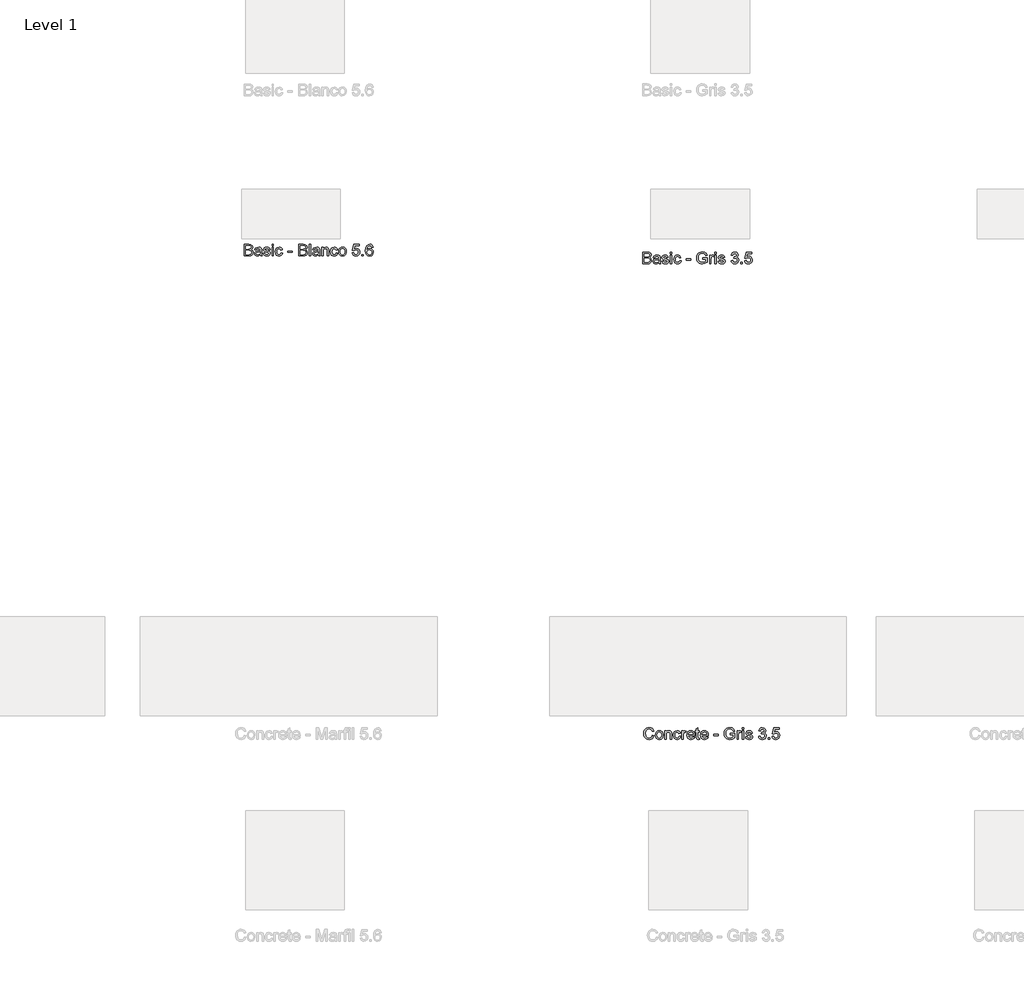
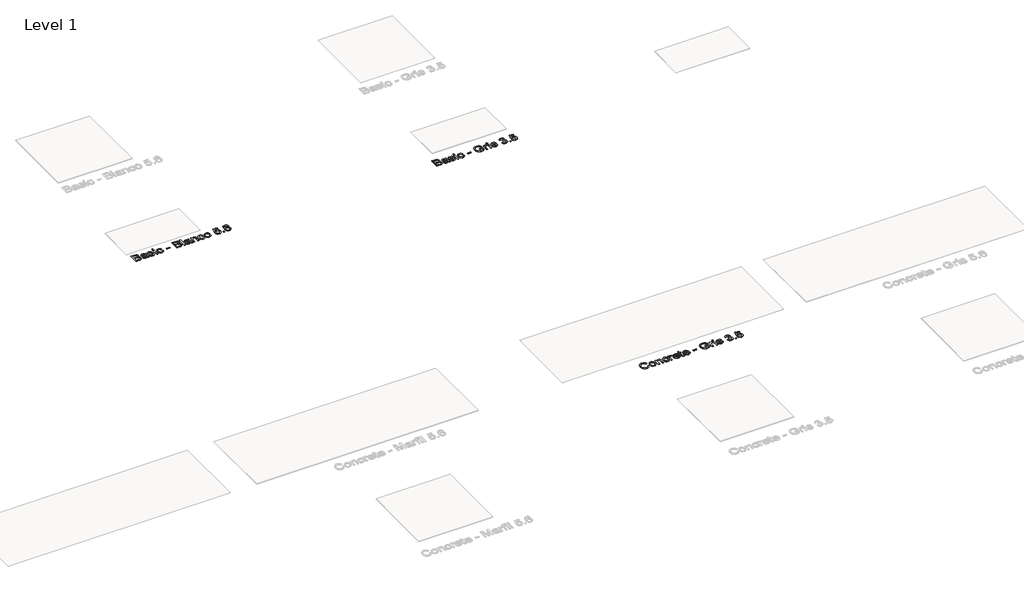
# One storey, part 46 of 80: 3 proxies.
"""IFC4 building model written with IfcOpenShell, lengths in millimetres."""

from ifc_helpers import new_model, si_unit, origin, origin_with_axes, place, context, project, spatial, polyline, outline, extrude, element, save

model = new_model("IFC4")

# Units and contexts
model_context = context("Model", 3, world=origin())
ifc_project = project(units=[si_unit("LENGTHUNIT", "METRE", prefix="MILLI")], contexts=[model_context])

# Site, building, storey
site = spatial("IfcSite", under=ifc_project)
building = spatial("IfcBuilding", under=site)
storey = spatial("IfcBuildingStorey", under=building, Name="Level 1", Elevation=0.0)

# Proxies
placement = place(None, origin())
element("IfcBuildingElementProxy", 1, Name="24\" Arial", ObjectType="24\" Arial", at=placement, inside=storey, context=model_context, shape_type="SweptSolid", body=[
    extrude(outline(polyline([(-23095.7640554, 15638.3282285), (-23095.7640554, 15756.4820747), (-23050.677517, 15756.4820747), (-23028.5957862, 15753.0061131), (-23015.5573247, 15742.3186131), (-23010.8409785, 15727.2032285), (-23014.8073247, 15713.4003439), (-23026.7929016, 15702.9436131), (-23012.240017, 15691.9243824), (-23007.1486708, 15673.5493824), (-23010.6246324, 15657.6695747), (-23019.2352093, 15646.3618824), (-23032.0861708, 15640.3618824), (-23051.0236708, 15638.3282285), (-23095.7640554, 15638.3282285)]), holes=[polyline([(-23080.9948247, 15653.0974593), (-23050.7063631, 15653.0974593), (-23039.7448247, 15653.6743824), (-23030.4707862, 15656.8907285), (-23024.3265554, 15663.4532285), (-23021.9179016, 15673.4051516), (-23024.7448247, 15684.8859208), (-23033.9034785, 15691.7368824), (-23052.1486708, 15693.7128439), (-23080.9948247, 15693.7128439), (-23080.9948247, 15653.0974593)]), polyline([(-23080.9948247, 15708.4820747), (-23054.0236708, 15708.4820747), (-23038.2736708, 15709.7513054), (-23028.7977093, 15715.2176516), (-23025.6102093, 15724.8378439), (-23028.5813631, 15734.4724593), (-23037.0909785, 15740.1695747), (-23056.0717477, 15741.7128439), (-23080.9948247, 15741.7128439), (-23080.9948247, 15708.4820747)])]), origin_with_axes(), (0.0, 0.0, 1.0), 2.0),
    extrude(outline(polyline([(-22933.302517, 15649.4051516), (-22947.6246324, 15639.3955362), (-22963.4467477, 15636.4820747), (-22975.7892958, 15638.2344785), (-22984.8938631, 15643.4916901), (-22990.5080458, 15651.4748631), (-22992.3794401, 15661.4051516), (-22989.552517, 15673.0878439), (-22982.1246324, 15681.5686131), (-22971.7832862, 15686.414767), (-22959.0044401, 15688.6359208), (-22933.3890554, 15693.7128439), (-22933.302517, 15697.0013054), (-22937.3698247, 15707.9051516), (-22953.6967477, 15712.1743824), (-22968.6390554, 15709.3330362), (-22975.7640554, 15699.2513054), (-22990.5332862, 15701.0974593), (-22984.1438631, 15715.5205362), (-22971.2784785, 15723.9724593), (-22951.7929016, 15726.9436131), (-22933.8938631, 15724.3186131), (-22923.7832862, 15717.727267), (-22919.2544401, 15707.7032285), (-22918.5332862, 15694.7801516), (-22918.5332862, 15676.4051516), (-22917.7832862, 15650.7464977), (-22914.8409785, 15638.3282285), (-22929.6102093, 15638.3282285), (-22933.302517, 15649.4051516)]), holes=[polyline([(-22933.302517, 15678.9436131), (-22957.1294401, 15674.414767), (-22969.8361708, 15672.0205362), (-22975.5909785, 15668.1263054), (-22977.6102093, 15662.4436131), (-22973.2111708, 15654.4532285), (-22960.302517, 15651.2513054), (-22945.3602093, 15654.7849593), (-22935.7255939, 15663.3378439), (-22933.3890554, 15674.7609208), (-22933.302517, 15678.9436131)])]), origin_with_axes(), (0.0, 0.0, 1.0), 2.0),
    extrude(outline(polyline([(-22903.7640554, 15664.1743824), (-22888.9948247, 15666.0205362), (-22882.1582862, 15655.0589977), (-22866.4948247, 15651.2513054), (-22851.4371324, 15654.7416901), (-22846.5332862, 15662.9339977), (-22851.4659785, 15669.5686131), (-22866.6679016, 15673.7801516), (-22888.9082862, 15681.0061131), (-22898.615017, 15689.4436131), (-22901.9179016, 15701.3570747), (-22899.2640554, 15712.3618824), (-22892.0236708, 15720.7705362), (-22882.6342477, 15725.1407285), (-22869.927517, 15726.9436131), (-22851.9563631, 15724.0445747), (-22840.5332862, 15716.1984208), (-22835.4563631, 15702.9436131), (-22850.2255939, 15701.0974593), (-22855.7784785, 15709.2464977), (-22868.7736708, 15712.1743824), (-22882.9082862, 15709.3763054), (-22887.1486708, 15702.8570747), (-22885.3890554, 15698.5589977), (-22879.8794401, 15695.2993824), (-22867.1582862, 15692.1551516), (-22845.4804016, 15685.2032285), (-22835.4130939, 15677.3282285), (-22831.7640554, 15664.4916901), (-22836.0477093, 15650.3570747), (-22848.4082862, 15640.102267), (-22866.6967477, 15636.4820747), (-22881.5885747, 15638.227267), (-22892.4563631, 15643.4628439), (-22899.7111708, 15652.1311131), (-22903.7640554, 15664.1743824)])), origin_with_axes(), (0.0, 0.0, 1.0), 2.0),
    extrude(outline(polyline([(-22815.1486708, 15638.3282285), (-22815.1486708, 15725.0974593), (-22800.3794401, 15725.0974593), (-22800.3794401, 15638.3282285), (-22815.1486708, 15638.3282285)])), origin_with_axes(), (0.0, 0.0, 1.0), 2.0),
    extrude(outline(polyline([(-22815.1486708, 15741.7128439), (-22815.1486708, 15756.4820747), (-22800.3794401, 15756.4820747), (-22800.3794401, 15741.7128439), (-22815.1486708, 15741.7128439)])), origin_with_axes(), (0.0, 0.0, 1.0), 2.0),
    extrude(outline(polyline([(-22722.8409785, 15669.7128439), (-22708.0717477, 15667.8666901), (-22712.1895362, 15654.7308727), (-22719.927517, 15644.8041901), (-22730.5573247, 15638.5626035), (-22743.3505939, 15636.4820747), (-22759.0609304, 15639.3847189), (-22771.3457862, 15648.0926516), (-22779.2748727, 15662.2236612), (-22781.9179016, 15681.3955362), (-22777.4034785, 15705.9291901), (-22771.7063631, 15715.1275074), (-22763.6438631, 15721.6936131), (-22743.552517, 15726.9436131), (-22731.0729497, 15725.1407285), (-22721.0957862, 15719.7320747), (-22713.9383343, 15711.0061131), (-22709.9179016, 15699.2513054), (-22724.6871324, 15697.4051516), (-22731.5380939, 15708.4676516), (-22743.4371324, 15712.1743824), (-22752.9816035, 15710.3498631), (-22760.5573247, 15704.8763054), (-22765.5008343, 15695.4580362), (-22767.1486708, 15681.7993824), (-22765.536892, 15667.9568343), (-22760.7015554, 15658.5061131), (-22753.2628535, 15653.0650074), (-22743.8409785, 15651.2513054), (-22729.9227093, 15655.7801516), (-22722.8409785, 15669.7128439)])), origin_with_axes(), (0.0, 0.0, 1.0), 2.0),
    extrude(outline(polyline([(-22656.3794401, 15673.4051516), (-22656.3794401, 15688.1743824), (-22610.2255939, 15688.1743824), (-22610.2255939, 15673.4051516), (-22656.3794401, 15673.4051516)])), origin_with_axes(), (0.0, 0.0, 1.0), 2.0),
    extrude(outline(polyline([(-22545.6102093, 15638.3282285), (-22545.6102093, 15756.4820747), (-22500.5236708, 15756.4820747), (-22478.4419401, 15753.0061131), (-22465.4034785, 15742.3186131), (-22460.6871324, 15727.2032285), (-22464.6534785, 15713.4003439), (-22476.6390554, 15702.9436131), (-22462.0861708, 15691.9243824), (-22456.9948247, 15673.5493824), (-22460.4707862, 15657.6695747), (-22469.0813631, 15646.3618824), (-22481.9323247, 15640.3618824), (-22500.8698247, 15638.3282285), (-22545.6102093, 15638.3282285)]), holes=[polyline([(-22530.8409785, 15708.4820747), (-22503.8698247, 15708.4820747), (-22488.1198247, 15709.7513054), (-22478.6438631, 15715.2176516), (-22475.4563631, 15724.8378439), (-22478.427517, 15734.4724593), (-22486.9371324, 15740.1695747), (-22505.9179016, 15741.7128439), (-22530.8409785, 15741.7128439), (-22530.8409785, 15708.4820747)]), polyline([(-22530.8409785, 15653.0974593), (-22500.552517, 15653.0974593), (-22489.5909785, 15653.6743824), (-22480.3169401, 15656.8907285), (-22474.1727093, 15663.4532285), (-22471.7640554, 15673.4051516), (-22474.5909785, 15684.8859208), (-22483.7496324, 15691.7368824), (-22501.9948247, 15693.7128439), (-22530.8409785, 15693.7128439), (-22530.8409785, 15653.0974593)])]), origin_with_axes(), (0.0, 0.0, 1.0), 2.0),
    extrude(outline(polyline([(-22438.5332862, 15638.3282285), (-22438.5332862, 15756.4820747), (-22423.7640554, 15756.4820747), (-22423.7640554, 15638.3282285), (-22438.5332862, 15638.3282285)])), origin_with_axes(), (0.0, 0.0, 1.0), 2.0),
    extrude(outline(polyline([(-22346.2255939, 15649.4051516), (-22360.5477093, 15639.3955362), (-22376.3698247, 15636.4820747), (-22388.7123727, 15638.2344785), (-22397.8169401, 15643.4916901), (-22403.4311227, 15651.4748631), (-22405.302517, 15661.4051516), (-22402.4755939, 15673.0878439), (-22395.0477093, 15681.5686131), (-22384.7063631, 15686.414767), (-22371.927517, 15688.6359208), (-22346.3121324, 15693.7128439), (-22346.2255939, 15697.0013054), (-22350.2929016, 15707.9051516), (-22366.6198247, 15712.1743824), (-22381.5621324, 15709.3330362), (-22388.6871324, 15699.2513054), (-22403.4563631, 15701.0974593), (-22397.0669401, 15715.5205362), (-22384.2015554, 15723.9724593), (-22364.7159785, 15726.9436131), (-22346.8169401, 15724.3186131), (-22336.7063631, 15717.727267), (-22332.177517, 15707.7032285), (-22331.4563631, 15694.7801516), (-22331.4563631, 15676.4051516), (-22330.7063631, 15650.7464977), (-22327.7640554, 15638.3282285), (-22342.5332862, 15638.3282285), (-22346.2255939, 15649.4051516)]), holes=[polyline([(-22346.2255939, 15678.9436131), (-22370.052517, 15674.414767), (-22382.7592477, 15672.0205362), (-22388.5140554, 15668.1263054), (-22390.5332862, 15662.4436131), (-22386.1342477, 15654.4532285), (-22373.2255939, 15651.2513054), (-22358.2832862, 15654.7849593), (-22348.6486708, 15663.3378439), (-22346.3121324, 15674.7609208), (-22346.2255939, 15678.9436131)])]), origin_with_axes(), (0.0, 0.0, 1.0), 2.0),
    extrude(outline(polyline([(-22311.1486708, 15638.3282285), (-22311.1486708, 15725.0974593), (-22296.3794401, 15725.0974593), (-22296.3794401, 15712.9820747), (-22285.0861708, 15723.4532285), (-22269.6679016, 15726.9436131), (-22255.7207862, 15724.1311131), (-22246.2015554, 15716.7464977), (-22241.7736708, 15705.8859208), (-22240.9948247, 15691.6070747), (-22240.9948247, 15638.3282285), (-22255.7640554, 15638.3282285), (-22255.7640554, 15689.6166901), (-22257.4659785, 15702.6839977), (-22263.4804016, 15709.5926516), (-22273.6198247, 15712.1743824), (-22289.6438631, 15706.3763054), (-22294.6955458, 15697.9748631), (-22296.3794401, 15684.3666901), (-22296.3794401, 15638.3282285), (-22311.1486708, 15638.3282285)])), origin_with_axes(), (0.0, 0.0, 1.0), 2.0),
    extrude(outline(polyline([(-22165.302517, 15669.7128439), (-22150.5332862, 15667.8666901), (-22154.6510747, 15654.7308727), (-22162.3890554, 15644.8041901), (-22173.0188631, 15638.5626035), (-22185.8121324, 15636.4820747), (-22201.5224689, 15639.3847189), (-22213.8073247, 15648.0926516), (-22221.7364112, 15662.2236612), (-22224.3794401, 15681.3955362), (-22219.865017, 15705.9291901), (-22214.1679016, 15715.1275074), (-22206.1054016, 15721.6936131), (-22186.0140554, 15726.9436131), (-22173.5344881, 15725.1407285), (-22163.5573247, 15719.7320747), (-22156.3998727, 15711.0061131), (-22152.3794401, 15699.2513054), (-22167.1486708, 15697.4051516), (-22173.9996324, 15708.4676516), (-22185.8986708, 15712.1743824), (-22195.443142, 15710.3498631), (-22203.0188631, 15704.8763054), (-22207.9623727, 15695.4580362), (-22209.6102093, 15681.7993824), (-22207.9984304, 15667.9568343), (-22203.1630939, 15658.5061131), (-22195.724392, 15653.0650074), (-22186.302517, 15651.2513054), (-22172.3842477, 15655.7801516), (-22165.302517, 15669.7128439)])), origin_with_axes(), (0.0, 0.0, 1.0), 2.0),
    extrude(outline(polyline([(-22141.302517, 15681.7128439), (-22138.1078054, 15702.633517), (-22128.5236708, 15717.3378439), (-22116.6823247, 15724.5421708), (-22102.5044401, 15726.9436131), (-22086.9888151, 15724.0193343), (-22074.5957862, 15715.2464977), (-22066.4719881, 15701.3174112), (-22063.7640554, 15682.9243824), (-22068.552517, 15656.6455362), (-22082.4996324, 15641.7753439), (-22102.5044401, 15636.4820747), (-22118.2075651, 15639.3955362), (-22130.5861708, 15648.1359208), (-22138.6234304, 15662.3570747), (-22141.302517, 15681.7128439)]), holes=[polyline([(-22126.5332862, 15681.7416901), (-22124.8241516, 15668.3751035), (-22119.6967477, 15658.852267), (-22111.9804016, 15653.1515458), (-22102.5044401, 15651.2513054), (-22093.0717477, 15653.1623631), (-22085.3698247, 15658.8955362), (-22080.2424208, 15668.5445747), (-22078.5332862, 15682.2032285), (-22080.2532381, 15695.180392), (-22085.4130939, 15704.5734208), (-22093.1258343, 15710.274142), (-22102.5044401, 15712.1743824), (-22111.9804016, 15710.2813535), (-22119.6967477, 15704.602267), (-22124.8241516, 15695.1010651), (-22126.5332862, 15681.7416901)])]), origin_with_axes(), (0.0, 0.0, 1.0), 2.0),
    extrude(outline(polyline([(-22004.6871324, 15669.7128439), (-21989.9179016, 15671.5589977), (-21982.4755939, 15656.3426516), (-21967.0429016, 15651.2513054), (-21956.4563631, 15653.0217381), (-21948.5236708, 15658.3330362), (-21943.5693439, 15666.5722189), (-21941.9179016, 15677.1263054), (-21943.4647766, 15687.0638054), (-21948.1054016, 15694.664767), (-21955.8758343, 15699.4892862), (-21966.8121324, 15701.0974593), (-21979.7784785, 15698.5301516), (-21988.0717477, 15691.8666901), (-22002.8409785, 15693.7128439), (-21989.9179016, 15754.6359208), (-21932.6871324, 15754.6359208), (-21932.6871324, 15739.8666901), (-21977.9755939, 15739.8666901), (-21984.2929016, 15707.3282285), (-21973.7424208, 15713.7320747), (-21962.6871324, 15715.8666901), (-21948.8878535, 15713.2200554), (-21937.4323247, 15705.2801516), (-21929.7195843, 15693.1791901), (-21927.1486708, 15678.0493824), (-21929.4635747, 15663.2801516), (-21936.4082862, 15650.6455362), (-21949.7063631, 15640.0229401), (-21967.1005939, 15636.4820747), (-21981.6066035, 15638.7573151), (-21993.1630939, 15645.5830362), (-22001.0849689, 15656.1659689), (-22004.6871324, 15669.7128439)])), origin_with_axes(), (0.0, 0.0, 1.0), 2.0),
    extrude(outline(polyline([(-21906.8409785, 15638.3282285), (-21906.8409785, 15653.0974593), (-21892.0717477, 15653.0974593), (-21892.0717477, 15638.3282285), (-21906.8409785, 15638.3282285)])), origin_with_axes(), (0.0, 0.0, 1.0), 2.0),
    extrude(outline(polyline([(-21792.3794401, 15725.0974593), (-21807.1486708, 15723.2513054), (-21812.7448247, 15735.5686131), (-21819.4443439, 15740.1767862), (-21827.5429016, 15741.7128439), (-21840.8698247, 15738.1359208), (-21850.9515554, 15724.7080362), (-21855.1486708, 15698.3859208), (-21842.1246324, 15710.1695747), (-21825.9852093, 15714.0205362), (-21812.3409785, 15711.3883247), (-21800.8890554, 15703.4916901), (-21793.1222285, 15691.4267862), (-21790.5332862, 15676.289767), (-21795.4082862, 15655.9099593), (-21808.8217477, 15641.4868824), (-21828.177517, 15636.4820747), (-21844.9335266, 15639.7993824), (-21858.2784785, 15649.7513054), (-21867.0080458, 15667.3186131), (-21869.9179016, 15693.4820747), (-21866.6871324, 15722.8979401), (-21856.9948247, 15743.0109208), (-21843.7616516, 15753.1142862), (-21826.6198247, 15756.4820747), (-21813.6606901, 15754.3979401), (-21803.2832862, 15748.1455362), (-21796.0140554, 15738.2152477), (-21792.3794401, 15725.0974593)]), holes=[polyline([(-21855.1486708, 15676.5205362), (-21851.7304016, 15663.727267), (-21842.6438631, 15654.4388054), (-21829.3313631, 15651.2513054), (-21819.5849689, 15652.9027477), (-21811.9227093, 15657.8570747), (-21806.9575651, 15665.6455362), (-21805.302517, 15675.7993824), (-21806.9359304, 15685.5457766), (-21811.8361708, 15692.977267), (-21819.6282381, 15697.6827958), (-21829.9371324, 15699.2513054), (-21839.6691035, 15697.6827958), (-21847.8073247, 15692.977267), (-21853.3133343, 15685.7260651), (-21855.1486708, 15676.5205362)])]), origin_with_axes(), (0.0, 0.0, 1.0), 2.0),
])
element("IfcBuildingElementProxy", 2, Name="24\" Arial", ObjectType="24\" Arial", at=placement, inside=storey, context=model_context, shape_type="SweptSolid", body=[
    extrude(outline(polyline([(-19065.9799633, 15559.8026123), (-19065.9799633, 15677.9564584), (-19020.8934248, 15677.9564584), (-18998.811694, 15674.4804969), (-18985.7732325, 15663.7929969), (-18981.0568864, 15648.6776123), (-18985.0232325, 15634.8747276), (-18997.0088094, 15624.4179969), (-18982.4559248, 15613.3987661), (-18977.3645787, 15595.0237661), (-18980.8405402, 15579.1439584), (-18989.4511171, 15567.8362661), (-19002.3020787, 15561.8362661), (-19021.2395787, 15559.8026123), (-19065.9799633, 15559.8026123)]), holes=[polyline([(-19051.2107325, 15574.571843), (-19020.922271, 15574.571843), (-19009.9607325, 15575.1487661), (-19000.686694, 15578.3651123), (-18994.5424633, 15584.9276123), (-18992.1338094, 15594.8795353), (-18994.9607325, 15606.3603046), (-19004.1193864, 15613.2112661), (-19022.3645787, 15615.1872276), (-19051.2107325, 15615.1872276), (-19051.2107325, 15574.571843)]), polyline([(-19051.2107325, 15629.9564584), (-19024.2395787, 15629.9564584), (-19008.4895787, 15631.2256892), (-18999.0136171, 15636.6920353), (-18995.8261171, 15646.3122276), (-18998.797271, 15655.946843), (-19007.3068864, 15661.6439584), (-19026.2876556, 15663.1872276), (-19051.2107325, 15663.1872276), (-19051.2107325, 15629.9564584)])]), origin_with_axes(), (0.0, 0.0, 1.0), 2.0),
    extrude(outline(polyline([(-18903.5184248, 15570.8795353), (-18917.8405402, 15560.8699199), (-18933.6626556, 15557.9564584), (-18946.0052037, 15559.7088623), (-18955.109771, 15564.9660738), (-18960.7239537, 15572.9492469), (-18962.5953479, 15582.8795353), (-18959.7684248, 15594.5622276), (-18952.3405402, 15603.0429969), (-18941.999194, 15607.8891507), (-18929.2203479, 15610.1103046), (-18903.6049633, 15615.1872276), (-18903.5184248, 15618.4756892), (-18907.5857325, 15629.3795353), (-18923.9126556, 15633.6487661), (-18938.8549633, 15630.8074199), (-18945.9799633, 15620.7256892), (-18960.749194, 15622.571843), (-18954.359771, 15636.9949199), (-18941.4943864, 15645.446843), (-18922.0088094, 15648.4179969), (-18904.109771, 15645.7929969), (-18893.999194, 15639.2016507), (-18889.4703479, 15629.1776123), (-18888.749194, 15616.2545353), (-18888.749194, 15597.8795353), (-18887.999194, 15572.2208815), (-18885.0568864, 15559.8026123), (-18899.8261171, 15559.8026123), (-18903.5184248, 15570.8795353)]), holes=[polyline([(-18903.5184248, 15600.4179969), (-18927.3453479, 15595.8891507), (-18940.0520787, 15593.4949199), (-18945.8068864, 15589.6006892), (-18947.8261171, 15583.9179969), (-18943.4270787, 15575.9276123), (-18930.5184248, 15572.7256892), (-18915.5761171, 15576.259343), (-18905.9415017, 15584.8122276), (-18903.6049633, 15596.2353046), (-18903.5184248, 15600.4179969)])]), origin_with_axes(), (0.0, 0.0, 1.0), 2.0),
    extrude(outline(polyline([(-18873.9799633, 15585.6487661), (-18859.2107325, 15587.4949199), (-18852.374194, 15576.5333815), (-18836.7107325, 15572.7256892), (-18821.6530402, 15576.2160738), (-18816.749194, 15584.4083815), (-18821.6818864, 15591.0429969), (-18836.8838094, 15595.2545353), (-18859.124194, 15602.4804969), (-18868.8309248, 15610.9179969), (-18872.1338094, 15622.8314584), (-18869.4799633, 15633.8362661), (-18862.2395787, 15642.2449199), (-18852.8501556, 15646.6151123), (-18840.1434248, 15648.4179969), (-18822.172271, 15645.5189584), (-18810.749194, 15637.6728046), (-18805.672271, 15624.4179969), (-18820.4415017, 15622.571843), (-18825.9943864, 15630.7208815), (-18838.9895787, 15633.6487661), (-18853.124194, 15630.8506892), (-18857.3645787, 15624.3314584), (-18855.6049633, 15620.0333815), (-18850.0953479, 15616.7737661), (-18837.374194, 15613.6295353), (-18815.6963094, 15606.6776123), (-18805.6290017, 15598.8026123), (-18801.9799633, 15585.9660738), (-18806.2636171, 15571.8314584), (-18818.624194, 15561.5766507), (-18836.9126556, 15557.9564584), (-18851.8044825, 15559.7016507), (-18862.672271, 15564.9372276), (-18869.9270787, 15573.6054969), (-18873.9799633, 15585.6487661)])), origin_with_axes(), (0.0, 0.0, 1.0), 2.0),
    extrude(outline(polyline([(-18785.3645787, 15559.8026123), (-18785.3645787, 15646.571843), (-18770.5953479, 15646.571843), (-18770.5953479, 15559.8026123), (-18785.3645787, 15559.8026123)])), origin_with_axes(), (0.0, 0.0, 1.0), 2.0),
    extrude(outline(polyline([(-18785.3645787, 15663.1872276), (-18785.3645787, 15677.9564584), (-18770.5953479, 15677.9564584), (-18770.5953479, 15663.1872276), (-18785.3645787, 15663.1872276)])), origin_with_axes(), (0.0, 0.0, 1.0), 2.0),
    extrude(outline(polyline([(-18693.0568864, 15591.1872276), (-18678.2876556, 15589.3410738), (-18682.405444, 15576.2052565), (-18690.1434248, 15566.2785738), (-18700.7732325, 15560.0369873), (-18713.5665017, 15557.9564584), (-18729.2768383, 15560.8591026), (-18741.561694, 15569.5670353), (-18749.4907806, 15583.6980449), (-18752.1338094, 15602.8699199), (-18747.6193864, 15627.4035738), (-18741.922271, 15636.6018911), (-18733.859771, 15643.1679969), (-18713.7684248, 15648.4179969), (-18701.2888575, 15646.6151123), (-18691.311694, 15641.2064584), (-18684.1542421, 15632.4804969), (-18680.1338094, 15620.7256892), (-18694.9030402, 15618.8795353), (-18701.7540017, 15629.9420353), (-18713.6530402, 15633.6487661), (-18723.1975114, 15631.8242469), (-18730.7732325, 15626.3506892), (-18735.7167421, 15616.9324199), (-18737.3645787, 15603.2737661), (-18735.7527998, 15589.431218), (-18730.9174633, 15579.9804969), (-18723.4787614, 15574.5393911), (-18714.0568864, 15572.7256892), (-18700.1386171, 15577.2545353), (-18693.0568864, 15591.1872276)])), origin_with_axes(), (0.0, 0.0, 1.0), 2.0),
    extrude(outline(polyline([(-18626.5953479, 15594.8795353), (-18626.5953479, 15609.6487661), (-18580.4415017, 15609.6487661), (-18580.4415017, 15594.8795353), (-18626.5953479, 15594.8795353)])), origin_with_axes(), (0.0, 0.0, 1.0), 2.0),
    extrude(outline(polyline([(-18460.4415017, 15605.9564584), (-18460.4415017, 15620.7256892), (-18412.4415017, 15620.7256892), (-18412.4415017, 15576.5622276), (-18436.1386171, 15562.6295353), (-18461.1915017, 15557.9564584), (-18477.7600114, 15559.8134296), (-18492.734771, 15565.384343), (-18505.1746748, 15574.4744873), (-18514.1386171, 15586.8891507), (-18519.5580883, 15601.7809776), (-18521.3645787, 15618.3026123), (-18519.5652998, 15634.9432373), (-18514.1674633, 15650.4228046), (-18505.3946267, 15663.4071796), (-18493.4703479, 15672.5622276), (-18478.9463094, 15677.9925161), (-18462.374194, 15679.8026123), (-18439.2684248, 15675.6054969), (-18423.0713094, 15663.9228046), (-18414.1434248, 15644.3795353), (-18427.7588094, 15640.5429969), (-18434.4943864, 15654.2016507), (-18446.0040017, 15662.0766507), (-18462.6049633, 15665.0333815), (-18481.5136171, 15661.8458815), (-18494.3790017, 15653.4804969), (-18501.9799633, 15642.1006892), (-18506.5953479, 15618.9083815), (-18505.2071267, 15604.7845834), (-18501.0424633, 15593.1631892), (-18494.2275594, 15584.1271315), (-18484.8886171, 15577.759343), (-18462.374194, 15572.7256892), (-18442.1674633, 15576.5189584), (-18427.2107325, 15584.6103046), (-18427.2107325, 15605.9564584), (-18460.4415017, 15605.9564584)])), origin_with_axes(), (0.0, 0.0, 1.0), 2.0),
    extrude(outline(polyline([(-18390.2876556, 15559.8026123), (-18390.2876556, 15646.571843), (-18377.3645787, 15646.571843), (-18377.3645787, 15633.7353046), (-18368.1915017, 15645.5622276), (-18358.9607325, 15648.4179969), (-18344.1338094, 15643.8603046), (-18349.0665017, 15630.6199199), (-18359.4511171, 15633.6487661), (-18367.8020787, 15630.7353046), (-18373.124194, 15622.6583815), (-18375.5184248, 15605.4083815), (-18375.5184248, 15559.8026123), (-18390.2876556, 15559.8026123)])), origin_with_axes(), (0.0, 0.0, 1.0), 2.0),
    extrude(outline(polyline([(-18334.9030402, 15663.1872276), (-18334.9030402, 15677.9564584), (-18320.1338094, 15677.9564584), (-18320.1338094, 15663.1872276), (-18334.9030402, 15663.1872276)])), origin_with_axes(), (0.0, 0.0, 1.0), 2.0),
    extrude(outline(polyline([(-18334.9030402, 15559.8026123), (-18334.9030402, 15646.571843), (-18320.1338094, 15646.571843), (-18320.1338094, 15559.8026123), (-18334.9030402, 15559.8026123)])), origin_with_axes(), (0.0, 0.0, 1.0), 2.0),
    extrude(outline(polyline([(-18303.5184248, 15585.6487661), (-18288.749194, 15587.4949199), (-18281.9126556, 15576.5333815), (-18266.249194, 15572.7256892), (-18251.1915017, 15576.2160738), (-18246.2876556, 15584.4083815), (-18251.2203479, 15591.0429969), (-18266.422271, 15595.2545353), (-18288.6626556, 15602.4804969), (-18298.3693864, 15610.9179969), (-18301.672271, 15622.8314584), (-18299.0184248, 15633.8362661), (-18291.7780402, 15642.2449199), (-18282.3886171, 15646.6151123), (-18269.6818864, 15648.4179969), (-18251.7107325, 15645.5189584), (-18240.2876556, 15637.6728046), (-18235.2107325, 15624.4179969), (-18249.9799633, 15622.571843), (-18255.5328479, 15630.7208815), (-18268.5280402, 15633.6487661), (-18282.6626556, 15630.8506892), (-18286.9030402, 15624.3314584), (-18285.1434248, 15620.0333815), (-18279.6338094, 15616.7737661), (-18266.9126556, 15613.6295353), (-18245.234771, 15606.6776123), (-18235.1674633, 15598.8026123), (-18231.5184248, 15585.9660738), (-18235.8020787, 15571.8314584), (-18248.1626556, 15561.5766507), (-18266.4511171, 15557.9564584), (-18281.342944, 15559.7016507), (-18292.2107325, 15564.9372276), (-18299.4655402, 15573.6054969), (-18303.5184248, 15585.6487661)])), origin_with_axes(), (0.0, 0.0, 1.0), 2.0),
    extrude(outline(polyline([(-18172.4415017, 15591.1872276), (-18157.672271, 15593.0333815), (-18149.5232325, 15577.4853046), (-18134.2780402, 15572.7256892), (-18124.1530402, 15574.3627084), (-18116.3357325, 15579.2737661), (-18111.3381364, 15586.6006892), (-18109.672271, 15595.4853046), (-18111.3237133, 15603.9191988), (-18116.2780402, 15610.759343), (-18123.7780402, 15615.2917949), (-18133.0665017, 15616.8026123), (-18143.422271, 15615.1872276), (-18141.7780402, 15629.9564584), (-18139.4126556, 15629.7833815), (-18122.6530402, 15634.0237661), (-18117.0713094, 15639.4035738), (-18115.2107325, 15647.0622276), (-18120.6049633, 15658.6151123), (-18134.5088094, 15663.1872276), (-18148.5857325, 15658.571843), (-18155.8261171, 15644.7256892), (-18170.5953479, 15646.571843), (-18166.2467902, 15659.8338623), (-18158.5088094, 15669.7353046), (-18147.922271, 15675.9011699), (-18135.0280402, 15677.9564584), (-18117.2155402, 15673.9035738), (-18104.7540017, 15662.8266507), (-18100.4415017, 15647.9276123), (-18104.5376556, 15634.3122276), (-18116.6530402, 15624.5333815), (-18107.4078479, 15620.7978046), (-18100.5568864, 15614.4372276), (-18096.3165017, 15605.7978046), (-18094.9030402, 15595.2256892), (-18097.7299633, 15580.8314584), (-18106.2107325, 15568.8026123), (-18119.0112133, 15560.6679969), (-18134.797271, 15557.9564584), (-18149.0761171, 15560.2713623), (-18160.7011171, 15567.2160738), (-18168.7852517, 15577.8386699), (-18172.4415017, 15591.1872276)])), origin_with_axes(), (0.0, 0.0, 1.0), 2.0),
    extrude(outline(polyline([(-18074.5953479, 15559.8026123), (-18074.5953479, 15574.571843), (-18059.8261171, 15574.571843), (-18059.8261171, 15559.8026123), (-18074.5953479, 15559.8026123)])), origin_with_axes(), (0.0, 0.0, 1.0), 2.0),
    extrude(outline(polyline([(-18035.8261171, 15591.1872276), (-18021.0568864, 15593.0333815), (-18013.6145787, 15577.8170353), (-17998.1818864, 15572.7256892), (-17987.5953479, 15574.4961219), (-17979.6626556, 15579.8074199), (-17974.7083287, 15588.0466026), (-17973.0568864, 15598.6006892), (-17974.6037614, 15608.5381892), (-17979.2443864, 15616.1391507), (-17987.014819, 15620.9636699), (-17997.9511171, 15622.571843), (-18010.9174633, 15620.0045353), (-18019.2107325, 15613.3410738), (-18033.9799633, 15615.1872276), (-18021.0568864, 15676.1103046), (-17963.8261171, 15676.1103046), (-17963.8261171, 15661.3410738), (-18009.1145787, 15661.3410738), (-18015.4318864, 15628.8026123), (-18004.8814056, 15635.2064584), (-17993.8261171, 15637.3410738), (-17980.0268383, 15634.6944392), (-17968.5713094, 15626.7545353), (-17960.858569, 15614.6535738), (-17958.2876556, 15599.5237661), (-17960.6025594, 15584.7545353), (-17967.547271, 15572.1199199), (-17980.8453479, 15561.4973238), (-17998.2395787, 15557.9564584), (-18012.7455883, 15560.2316988), (-18024.3020787, 15567.0574199), (-18032.2239537, 15577.6403526), (-18035.8261171, 15591.1872276)])), origin_with_axes(), (0.0, 0.0, 1.0), 2.0),
])
element("IfcBuildingElementProxy", 3, Name="24\" Arial", ObjectType="24\" Arial", at=placement, inside=storey, context=model_context, shape_type="SweptSolid", body=[
    extrude(outline(polyline([(-18967.0761079, 10790.728562), (-18952.3068771, 10786.9208697), (-18959.121781, 10769.7105332), (-18969.8164925, 10757.1372159), (-18983.8645694, 10749.4461101), (-19000.7395694, 10746.8824082), (-19017.8705791, 10748.822312), (-19031.4751464, 10754.6420236), (-19041.903031, 10764.1396197), (-19049.5039925, 10777.1131774), (-19054.1446175, 10792.3655813), (-19055.6914925, 10808.6997159), (-19053.9426944, 10825.9280813), (-19048.6963002, 10840.8054851), (-19040.2263483, 10852.8595717), (-19028.8068771, 10861.6179851), (-19015.2636079, 10866.9509178), (-19000.4222617, 10868.728562), (-18984.2287521, 10866.4280813), (-18970.840531, 10859.526639), (-18960.6758675, 10848.4497159), (-18954.153031, 10833.6227928), (-18968.9222617, 10830.103562), (-18974.0424541, 10840.8739947), (-18981.0376464, 10848.2622159), (-18989.9943771, 10852.5350524), (-19000.9991848, 10853.9593313), (-19013.684281, 10852.3800044), (-19024.1049541, 10847.6420236), (-19032.012406, 10840.2429851), (-19037.1578387, 10830.6804851), (-19040.9222617, 10808.728562), (-19036.465531, 10783.2862544), (-19030.7684156, 10773.7850524), (-19022.590531, 10767.0314467), (-19002.2107233, 10761.651639), (-18989.8825983, 10763.4833697), (-18979.6097617, 10768.978562), (-18971.8537521, 10778.0795236), (-18967.0761079, 10790.728562)])), origin_with_axes(), (0.0, 0.0, 1.0), 2.0),
    extrude(outline(polyline([(-18937.5376464, 10792.1131774), (-18934.3429348, 10813.0338505), (-18924.7588002, 10827.7381774), (-18912.9174541, 10834.9425044), (-18898.7395694, 10837.3439467), (-18883.2239444, 10834.4196678), (-18870.8309156, 10825.6468313), (-18862.7071175, 10811.7177447), (-18859.9991848, 10793.3247159), (-18864.7876464, 10767.0458697), (-18878.7347617, 10752.1756774), (-18898.7395694, 10746.8824082), (-18914.4426944, 10749.7958697), (-18926.8213002, 10758.5362544), (-18934.8585598, 10772.7574082), (-18937.5376464, 10792.1131774)]), holes=[polyline([(-18922.7684156, 10792.1420236), (-18921.059281, 10778.775437), (-18915.9318771, 10769.2526005), (-18908.215531, 10763.5518794), (-18898.7395694, 10761.651639), (-18889.3068771, 10763.5626967), (-18881.6049541, 10769.2958697), (-18876.4775502, 10778.9449082), (-18874.7684156, 10792.603562), (-18876.4883675, 10805.5807255), (-18881.6482233, 10814.9737544), (-18889.3609637, 10820.6744755), (-18898.7395694, 10822.5747159), (-18908.215531, 10820.681687), (-18915.9318771, 10815.0026005), (-18921.059281, 10805.5013986), (-18922.7684156, 10792.1420236)])]), origin_with_axes(), (0.0, 0.0, 1.0), 2.0),
    extrude(outline(polyline([(-18843.3838002, 10748.728562), (-18843.3838002, 10835.4977928), (-18828.6145694, 10835.4977928), (-18828.6145694, 10823.3824082), (-18817.3213002, 10833.853562), (-18801.903031, 10837.3439467), (-18787.9559156, 10834.5314467), (-18778.4366848, 10827.1468313), (-18774.0088002, 10816.2862544), (-18773.2299541, 10802.0074082), (-18773.2299541, 10748.728562), (-18787.9991848, 10748.728562), (-18787.9991848, 10800.0170236), (-18789.7011079, 10813.0843313), (-18795.715531, 10819.9929851), (-18805.8549541, 10822.5747159), (-18821.8789925, 10816.776639), (-18826.9306752, 10808.3751967), (-18828.6145694, 10794.7670236), (-18828.6145694, 10748.728562), (-18843.3838002, 10748.728562)])), origin_with_axes(), (0.0, 0.0, 1.0), 2.0),
    extrude(outline(polyline([(-18697.5376464, 10780.1131774), (-18682.7684156, 10778.2670236), (-18686.8862041, 10765.1312063), (-18694.6241848, 10755.2045236), (-18705.2539925, 10748.962937), (-18718.0472617, 10746.8824082), (-18733.7575983, 10749.7850524), (-18746.0424541, 10758.4929851), (-18753.9715406, 10772.6239947), (-18756.6145694, 10791.7958697), (-18752.1001464, 10816.3295236), (-18746.403031, 10825.5278409), (-18738.340531, 10832.0939467), (-18718.2491848, 10837.3439467), (-18705.7696175, 10835.541062), (-18695.7924541, 10830.1324082), (-18688.6350021, 10821.4064467), (-18684.6145694, 10809.651639), (-18699.3838002, 10807.8054851), (-18706.2347617, 10818.8679851), (-18718.1338002, 10822.5747159), (-18727.6782714, 10820.7501967), (-18735.2539925, 10815.276639), (-18740.1975021, 10805.8583697), (-18741.8453387, 10792.1997159), (-18740.2335598, 10778.3571678), (-18735.3982233, 10768.9064467), (-18727.9595214, 10763.4653409), (-18718.5376464, 10761.651639), (-18704.6193771, 10766.1804851), (-18697.5376464, 10780.1131774)])), origin_with_axes(), (0.0, 0.0, 1.0), 2.0),
    extrude(outline(polyline([(-18669.8453387, 10748.728562), (-18669.8453387, 10835.4977928), (-18656.9222617, 10835.4977928), (-18656.9222617, 10822.6612544), (-18647.7491848, 10834.4881774), (-18638.5184156, 10837.3439467), (-18623.6914925, 10832.7862544), (-18628.6241848, 10819.5458697), (-18639.0088002, 10822.5747159), (-18647.3597617, 10819.6612544), (-18652.6818771, 10811.5843313), (-18655.0761079, 10794.3343313), (-18655.0761079, 10748.728562), (-18669.8453387, 10748.728562)])), origin_with_axes(), (0.0, 0.0, 1.0), 2.0),
    extrude(outline(polyline([(-18553.7107233, 10774.5747159), (-18539.2299541, 10772.728562), (-18544.4475021, 10761.8175044), (-18552.7732233, 10753.6612544), (-18564.0196175, 10748.5771197), (-18577.9991848, 10746.8824082), (-18595.3285117, 10749.806687), (-18608.6626464, 10758.5795236), (-18617.1650502, 10772.6312063), (-18619.9991848, 10791.3920236), (-18617.1362041, 10810.7838505), (-18608.5472617, 10825.2862544), (-18595.3934156, 10834.3295236), (-18578.8357233, 10837.3439467), (-18562.793656, 10834.3367351), (-18549.9751464, 10825.3151005), (-18541.5700983, 10810.8415428), (-18538.7684156, 10791.478562), (-18538.8549541, 10787.4977928), (-18605.2299541, 10787.4977928), (-18602.6734637, 10776.4425044), (-18596.7347617, 10768.3151005), (-18588.1638483, 10763.3175044), (-18577.7107233, 10761.651639), (-18563.2299541, 10764.7381774), (-18553.7107233, 10774.5747159)]), holes=[polyline([(-18605.2299541, 10802.2670236), (-18553.5376464, 10802.2670236), (-18559.4511079, 10815.651639), (-18568.0616848, 10820.8439467), (-18578.8934156, 10822.5747159), (-18597.0809156, 10817.0506774), (-18602.8032714, 10810.5927447), (-18605.2299541, 10802.2670236)])]), origin_with_axes(), (0.0, 0.0, 1.0), 2.0),
    extrude(outline(polyline([(-18492.6145694, 10761.0458697), (-18490.7684156, 10748.2958697), (-18501.8164925, 10746.8824082), (-18514.1914925, 10749.3343313), (-18520.3645694, 10755.7670236), (-18522.153031, 10772.526639), (-18522.153031, 10820.728562), (-18533.2299541, 10820.728562), (-18533.2299541, 10835.4977928), (-18522.153031, 10835.4977928), (-18522.153031, 10856.5843313), (-18507.3838002, 10865.2670236), (-18507.3838002, 10835.4977928), (-18492.6145694, 10835.4977928), (-18492.6145694, 10820.728562), (-18507.3838002, 10820.728562), (-18507.3838002, 10772.9593313), (-18506.6049541, 10765.3439467), (-18504.0809156, 10762.6468313), (-18499.0472617, 10761.651639), (-18492.6145694, 10761.0458697)])), origin_with_axes(), (0.0, 0.0, 1.0), 2.0),
    extrude(outline(polyline([(-18417.0953387, 10774.5747159), (-18402.6145694, 10772.728562), (-18407.8321175, 10761.8175044), (-18416.1578387, 10753.6612544), (-18427.4042329, 10748.5771197), (-18441.3838002, 10746.8824082), (-18458.7131271, 10749.806687), (-18472.0472617, 10758.5795236), (-18480.5496656, 10772.6312063), (-18483.3838002, 10791.3920236), (-18480.5208194, 10810.7838505), (-18471.9318771, 10825.2862544), (-18458.778031, 10834.3295236), (-18442.2203387, 10837.3439467), (-18426.1782714, 10834.3367351), (-18413.3597617, 10825.3151005), (-18404.9547137, 10810.8415428), (-18402.153031, 10791.478562), (-18402.2395694, 10787.4977928), (-18468.6145694, 10787.4977928), (-18466.0580791, 10776.4425044), (-18460.1193771, 10768.3151005), (-18451.5484637, 10763.3175044), (-18441.0953387, 10761.651639), (-18426.6145694, 10764.7381774), (-18417.0953387, 10774.5747159)]), holes=[polyline([(-18468.6145694, 10802.2670236), (-18416.9222617, 10802.2670236), (-18422.8357233, 10815.651639), (-18431.4463002, 10820.8439467), (-18442.278031, 10822.5747159), (-18460.465531, 10817.0506774), (-18466.1878867, 10810.5927447), (-18468.6145694, 10802.2670236)])]), origin_with_axes(), (0.0, 0.0, 1.0), 2.0),
    extrude(outline(polyline([(-18348.6145694, 10783.8054851), (-18348.6145694, 10798.5747159), (-18302.4607233, 10798.5747159), (-18302.4607233, 10783.8054851), (-18348.6145694, 10783.8054851)])), origin_with_axes(), (0.0, 0.0, 1.0), 2.0),
    extrude(outline(polyline([(-18182.4607233, 10794.8824082), (-18182.4607233, 10809.651639), (-18134.4607233, 10809.651639), (-18134.4607233, 10765.4881774), (-18158.1578387, 10751.5554851), (-18183.2107233, 10746.8824082), (-18199.7792329, 10748.7393794), (-18214.7539925, 10754.3102928), (-18227.1938964, 10763.400437), (-18236.1578387, 10775.8151005), (-18241.5773098, 10790.7069274), (-18243.3838002, 10807.228562), (-18241.5845214, 10823.869187), (-18236.1866848, 10839.3487544), (-18227.4138483, 10852.3331294), (-18215.4895694, 10861.4881774), (-18200.965531, 10866.9184659), (-18184.3934156, 10868.728562), (-18161.2876464, 10864.5314467), (-18145.090531, 10852.8487544), (-18136.1626464, 10833.3054851), (-18149.778031, 10829.4689467), (-18156.5136079, 10843.1276005), (-18168.0232233, 10851.0026005), (-18184.6241848, 10853.9593313), (-18203.5328387, 10850.7718313), (-18216.3982233, 10842.4064467), (-18223.9991848, 10831.026639), (-18228.6145694, 10807.8343313), (-18227.2263483, 10793.7105332), (-18223.0616848, 10782.089139), (-18216.246781, 10773.0530813), (-18206.9078387, 10766.6852928), (-18184.3934156, 10761.651639), (-18164.1866848, 10765.4449082), (-18149.2299541, 10773.5362544), (-18149.2299541, 10794.8824082), (-18182.4607233, 10794.8824082)])), origin_with_axes(), (0.0, 0.0, 1.0), 2.0),
    extrude(outline(polyline([(-18112.3068771, 10748.728562), (-18112.3068771, 10835.4977928), (-18099.3838002, 10835.4977928), (-18099.3838002, 10822.6612544), (-18090.2107233, 10834.4881774), (-18080.9799541, 10837.3439467), (-18066.153031, 10832.7862544), (-18071.0857233, 10819.5458697), (-18081.4703387, 10822.5747159), (-18089.8213002, 10819.6612544), (-18095.1434156, 10811.5843313), (-18097.5376464, 10794.3343313), (-18097.5376464, 10748.728562), (-18112.3068771, 10748.728562)])), origin_with_axes(), (0.0, 0.0, 1.0), 2.0),
    extrude(outline(polyline([(-18056.9222617, 10852.1131774), (-18056.9222617, 10866.8824082), (-18042.153031, 10866.8824082), (-18042.153031, 10852.1131774), (-18056.9222617, 10852.1131774)])), origin_with_axes(), (0.0, 0.0, 1.0), 2.0),
    extrude(outline(polyline([(-18056.9222617, 10748.728562), (-18056.9222617, 10835.4977928), (-18042.153031, 10835.4977928), (-18042.153031, 10748.728562), (-18056.9222617, 10748.728562)])), origin_with_axes(), (0.0, 0.0, 1.0), 2.0),
    extrude(outline(polyline([(-18025.5376464, 10774.5747159), (-18010.7684156, 10776.4208697), (-18003.9318771, 10765.4593313), (-17988.2684156, 10761.651639), (-17973.2107233, 10765.1420236), (-17968.3068771, 10773.3343313), (-17973.2395694, 10779.9689467), (-17988.4414925, 10784.1804851), (-18010.6818771, 10791.4064467), (-18020.3886079, 10799.8439467), (-18023.6914925, 10811.7574082), (-18021.0376464, 10822.7622159), (-18013.7972617, 10831.1708697), (-18004.4078387, 10835.541062), (-17991.7011079, 10837.3439467), (-17973.7299541, 10834.4449082), (-17962.3068771, 10826.5987544), (-17957.2299541, 10813.3439467), (-17971.9991848, 10811.4977928), (-17977.5520694, 10819.6468313), (-17990.5472617, 10822.5747159), (-18004.6818771, 10819.776639), (-18008.9222617, 10813.2574082), (-18007.1626464, 10808.9593313), (-18001.653031, 10805.6997159), (-17988.9318771, 10802.5554851), (-17967.2539925, 10795.603562), (-17957.1866848, 10787.728562), (-17953.5376464, 10774.8920236), (-17957.8213002, 10760.7574082), (-17970.1818771, 10750.5026005), (-17988.4703387, 10746.8824082), (-18003.3621656, 10748.6276005), (-18014.2299541, 10753.8631774), (-18021.4847617, 10762.5314467), (-18025.5376464, 10774.5747159)])), origin_with_axes(), (0.0, 0.0, 1.0), 2.0),
    extrude(outline(polyline([(-17894.4607233, 10780.1131774), (-17879.6914925, 10781.9593313), (-17871.5424541, 10766.4112544), (-17856.2972617, 10761.651639), (-17846.1722617, 10763.2886582), (-17838.3549541, 10768.1997159), (-17833.3573579, 10775.526639), (-17831.6914925, 10784.4112544), (-17833.3429348, 10792.8451486), (-17838.2972617, 10799.6852928), (-17845.7972617, 10804.2177447), (-17855.0857233, 10805.728562), (-17865.4414925, 10804.1131774), (-17863.7972617, 10818.8824082), (-17861.4318771, 10818.7093313), (-17844.6722617, 10822.9497159), (-17839.090531, 10828.3295236), (-17837.2299541, 10835.9881774), (-17842.6241848, 10847.541062), (-17856.528031, 10852.1131774), (-17870.6049541, 10847.4977928), (-17877.8453387, 10833.651639), (-17892.6145694, 10835.4977928), (-17888.2660117, 10848.759812), (-17880.528031, 10858.6612544), (-17869.9414925, 10864.8271197), (-17857.0472617, 10866.8824082), (-17839.2347617, 10862.8295236), (-17826.7732233, 10851.7526005), (-17822.4607233, 10836.853562), (-17826.5568771, 10823.2381774), (-17838.6722617, 10813.4593313), (-17829.4270694, 10809.7237544), (-17822.5761079, 10803.3631774), (-17818.3357233, 10794.7237544), (-17816.9222617, 10784.151639), (-17819.7491848, 10769.7574082), (-17828.2299541, 10757.728562), (-17841.0304348, 10749.5939467), (-17856.8164925, 10746.8824082), (-17871.0953387, 10749.197312), (-17882.7203387, 10756.1420236), (-17890.8044733, 10766.7646197), (-17894.4607233, 10780.1131774)])), origin_with_axes(), (0.0, 0.0, 1.0), 2.0),
    extrude(outline(polyline([(-17796.6145694, 10748.728562), (-17796.6145694, 10763.4977928), (-17781.8453387, 10763.4977928), (-17781.8453387, 10748.728562), (-17796.6145694, 10748.728562)])), origin_with_axes(), (0.0, 0.0, 1.0), 2.0),
    extrude(outline(polyline([(-17757.8453387, 10780.1131774), (-17743.0761079, 10781.9593313), (-17735.6338002, 10766.7429851), (-17720.2011079, 10761.651639), (-17709.6145694, 10763.4220717), (-17701.6818771, 10768.7333697), (-17696.7275502, 10776.9725524), (-17695.0761079, 10787.526639), (-17696.6229829, 10797.464139), (-17701.2636079, 10805.0651005), (-17709.0340406, 10809.8896197), (-17719.9703387, 10811.4977928), (-17732.9366848, 10808.9304851), (-17741.2299541, 10802.2670236), (-17755.9991848, 10804.1131774), (-17743.0761079, 10865.0362544), (-17685.8453387, 10865.0362544), (-17685.8453387, 10850.2670236), (-17731.1338002, 10850.2670236), (-17737.4511079, 10817.728562), (-17726.9006271, 10824.1324082), (-17715.8453387, 10826.2670236), (-17702.0460598, 10823.620389), (-17690.590531, 10815.6804851), (-17682.8777906, 10803.5795236), (-17680.3068771, 10788.4497159), (-17682.621781, 10773.6804851), (-17689.5664925, 10761.0458697), (-17702.8645694, 10750.4232736), (-17720.2588002, 10746.8824082), (-17734.7648098, 10749.1576486), (-17746.3213002, 10755.9833697), (-17754.2431752, 10766.5663024), (-17757.8453387, 10780.1131774)])), origin_with_axes(), (0.0, 0.0, 1.0), 2.0),
])

save(model, "model.ifc")
